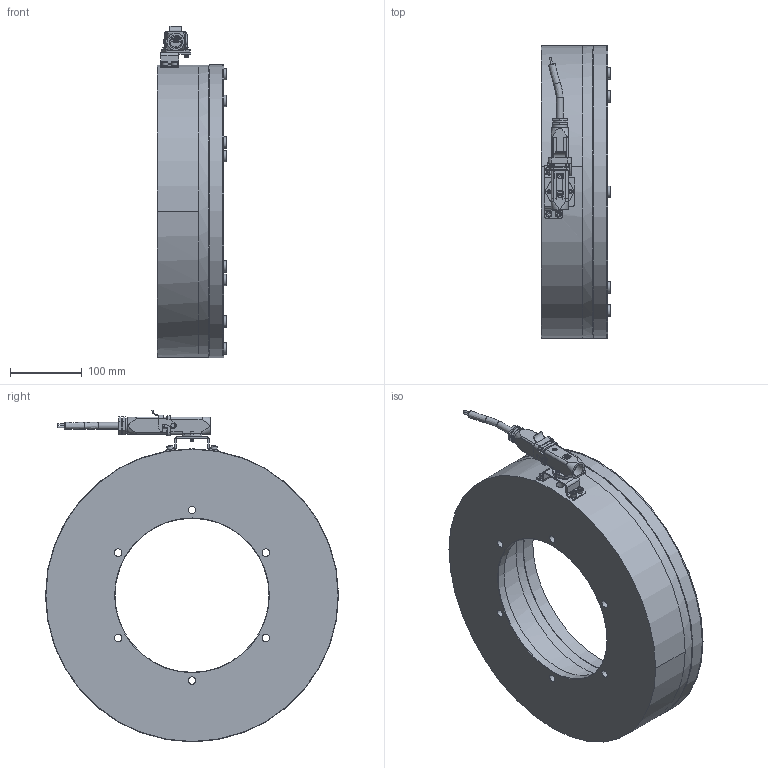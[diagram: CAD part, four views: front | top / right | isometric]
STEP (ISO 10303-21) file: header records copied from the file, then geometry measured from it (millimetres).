
FILE_DESCRIPTION(/* description */ (''),/* implementation_level */ '2;1');
FILE_NAME(/* name */ 'X:\INVENTOR\DISEGNI\08_Freni_Friz_Elettmag_Monodisco\08_28 EMFL_DF\EMFL_DF STEP\08_28_400_11 EMFL400_DF-B_S@STEP.stp',/* time_stamp */ '2018-04-23T16:10:59+02:00',/* author */ ('stefano'),/* organization */ (''),/* preprocessor_version */ 'ST-DEVELOPER v17',/* originating_system */ 'Autodesk Inventor 2018',/* authorisation */ '');
FILE_SCHEMA (('AUTOMOTIVE_DESIGN { 1 0 10303 214 3 1 1 }'));
Length unit declared in the file: millimetre
Products named in the file (1): 08_28_400_11 EMFL400_DF-B - Spina_Substitute_1
Bounding box: 97.5 x 409 x 462.92 mm (x, y, z)
Volume: 7136866.6 mm3; surface area: 754624.5 mm2
Topology: 3 solids, 3 shells, 1391 faces, 3917 edges, 2612 vertices
Faces by surface type: plane 842, cylinder 451, cone 59, bspline 21, torus 15, sphere 3
Full cylindrical faces by diameter (mm): 0.753 x1, 0.986 x1, 1.05 x1, 2.5 x2, 3 x15, 3.2 x1, 3.25 x2, 3.59 x1, 4 x3, 4.675 x2, 4.8 x2, 5 x4, 5.5 x2, 6 x2, 6.2 x1, 7 x1, 8.2 x2, 8.5 x4, 9.5 x2, 10.5 x6, 12 x1, 12.1 x6, 13.5 x2, 16 x14, 17.8 x12, 18 x13, 18.6 x1, 20.6 x1, 215 x1, 260 x3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
Entity records: 48016 total; most frequent: CARTESIAN_POINT 9285, DIRECTION 7852, ORIENTED_EDGE 7822, EDGE_CURVE 3911, AXIS2_PLACEMENT_3D 2730, VERTEX_POINT 2612, LINE 2392, VECTOR 2392
